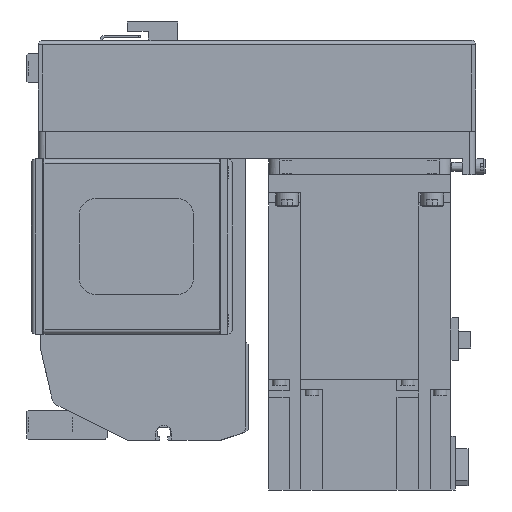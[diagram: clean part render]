
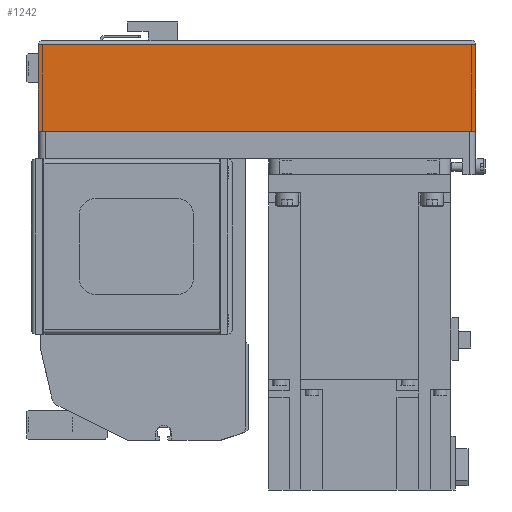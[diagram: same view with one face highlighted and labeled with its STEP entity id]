
A CAD part, left-side view. The second image highlights one B-rep face of the part: STEP entity #1242.
In plain terms, the highlighted planar face has unit normal (-1, 0, 0) as drawn and (0, -1, 0) by its records, which use the part's own axes.
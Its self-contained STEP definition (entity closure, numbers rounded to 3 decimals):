
#1242 = ADVANCED_FACE( '', ( #3429 ), #3430, .T. );
#3429 = FACE_OUTER_BOUND( '', #6923, .T. );
#3430 = PLANE( '', #6924 );
#6923 = EDGE_LOOP( '', ( #10471, #10472, #10473, #10474 ) );
#6924 = AXIS2_PLACEMENT_3D( '', #10475, #10476, #10477 );
#10471 = ORIENTED_EDGE( '', *, *, #19794, .F. );
#10472 = ORIENTED_EDGE( '', *, *, #19795, .F. );
#10473 = ORIENTED_EDGE( '', *, *, #19796, .T. );
#10474 = ORIENTED_EDGE( '', *, *, #19797, .T. );
#10475 = CARTESIAN_POINT( '', ( -192., -40., -12.1 ) );
#10476 = DIRECTION( '', ( 0., -1., 0. ) );
#10477 = DIRECTION( '', ( 0., 0., -1. ) );
#19794 = EDGE_CURVE( '', #23477, #23478, #23479, .T. );
#19795 = EDGE_CURVE( '', #23480, #23477, #23481, .T. );
#19796 = EDGE_CURVE( '', #23480, #23482, #23483, .T. );
#19797 = EDGE_CURVE( '', #23482, #23478, #23484, .T. );
#23477 = VERTEX_POINT( '', #28965 );
#23478 = VERTEX_POINT( '', #28966 );
#23479 = LINE( '', #28967, #28968 );
#23480 = VERTEX_POINT( '', #28969 );
#23481 = LINE( '', #28970, #28971 );
#23482 = VERTEX_POINT( '', #28972 );
#23483 = LINE( '', #28973, #28974 );
#23484 = LINE( '', #28975, #28976 );
#28965 = CARTESIAN_POINT( '', ( 0., -40., -12.1 ) );
#28966 = CARTESIAN_POINT( '', ( 0., -40., -50. ) );
#28967 = CARTESIAN_POINT( '', ( 0., -40., -12.1 ) );
#28968 = VECTOR( '', #37042, 1000. );
#28969 = CARTESIAN_POINT( '', ( -192., -40., -12.1 ) );
#28970 = CARTESIAN_POINT( '', ( -192., -40., -12.1 ) );
#28971 = VECTOR( '', #37043, 1000. );
#28972 = CARTESIAN_POINT( '', ( -192., -40., -50. ) );
#28973 = CARTESIAN_POINT( '', ( -192., -40., -12.1 ) );
#28974 = VECTOR( '', #37044, 1000. );
#28975 = CARTESIAN_POINT( '', ( -192., -40., -50. ) );
#28976 = VECTOR( '', #37045, 1000. );
#37042 = DIRECTION( '', ( 0., 0., -1. ) );
#37043 = DIRECTION( '', ( 1., 0., 0. ) );
#37044 = DIRECTION( '', ( 0., 0., -1. ) );
#37045 = DIRECTION( '', ( 1., 0., 0. ) );
